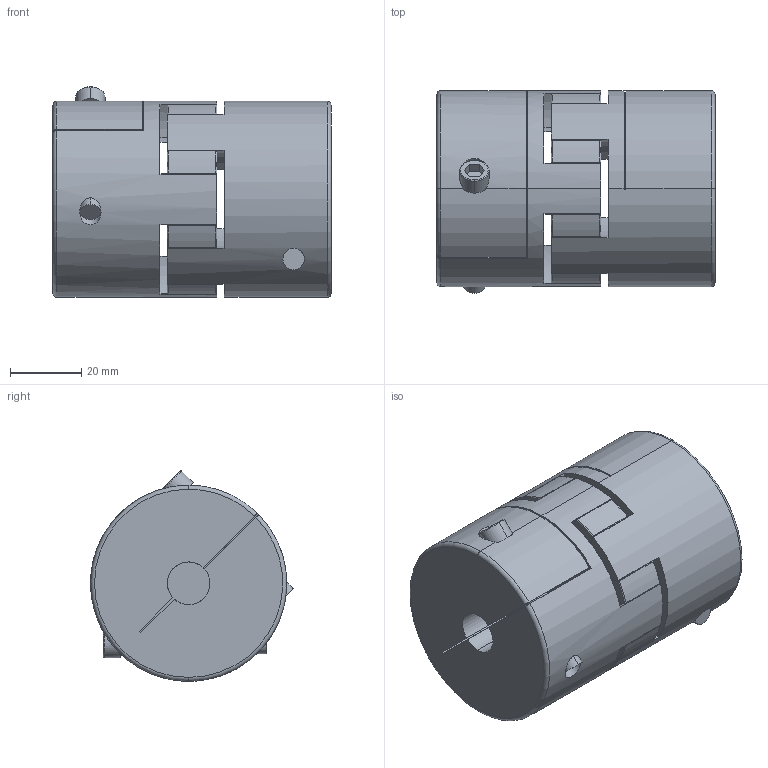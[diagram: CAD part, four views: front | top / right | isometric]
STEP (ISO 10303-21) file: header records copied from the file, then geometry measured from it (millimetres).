
FILE_DESCRIPTION (( 'STEP AP203' ), '1' );
FILE_NAME ('JM55CRD-12-12.STEP', '2021-01-27T09:24:52', ( '微软用户' ), ( '微软中国' ), 'SwSTEP 2.0', 'SolidWorks 2016', '' );
FILE_SCHEMA (( 'CONFIG_CONTROL_DESIGN' ));
Length unit declared in the file: millimetre
Products named in the file (1): JM55CRD-12-12
Bounding box: 78 x 56.89 x 59.09 mm (x, y, z)
Volume: 163387 mm3; surface area: 36988.8 mm2
Topology: 1 solids, 1 shells, 407 faces, 996 edges, 560 vertices
Faces by surface type: torus 151, cylinder 128, sphere 60, plane 52, bspline 16
Entity records: 13134 total; most frequent: CARTESIAN_POINT 3627, DIRECTION 2231, ORIENTED_EDGE 1896, AXIS2_PLACEMENT_3D 1002, EDGE_CURVE 948, CIRCLE 610, VERTEX_POINT 536, EDGE_LOOP 420
